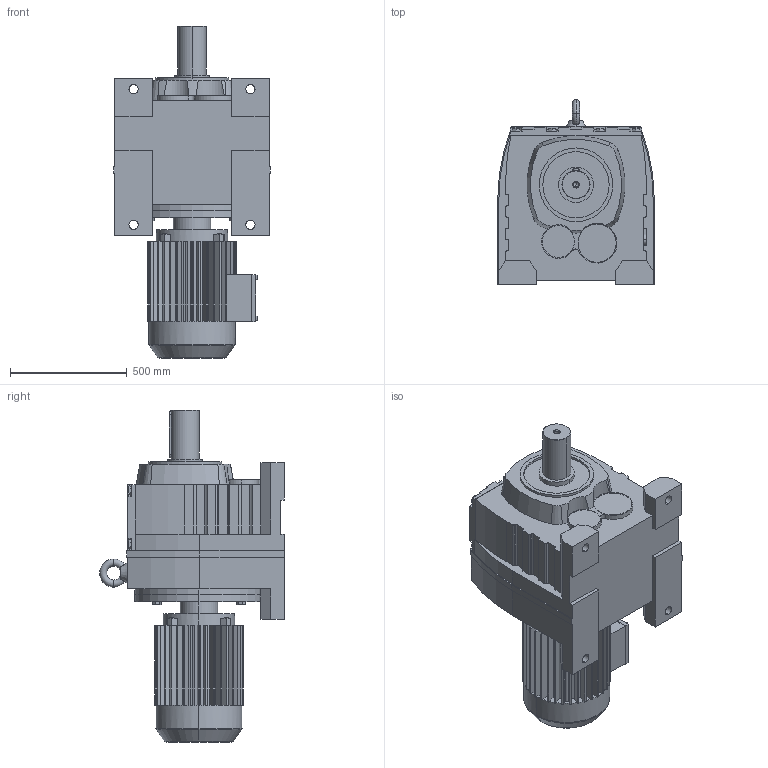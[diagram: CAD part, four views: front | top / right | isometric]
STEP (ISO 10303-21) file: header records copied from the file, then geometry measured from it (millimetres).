
FILE_DESCRIPTION(('Open CASCADE Model'),'2;1');
FILE_NAME('Open CASCADE Shape Model','2021-06-28T11:21:43',('Author'),( 'Open CASCADE'),'Open CASCADE STEP processor 6.3','Open CASCADE 6.3' ,'Unknown');
FILE_SCHEMA(('AUTOMOTIVE_DESIGN_CC2 { 1 2 10303 214 -1 1 5 4 }'));
Length unit declared in the file: millimetre
Products named in the file (3): 1_R167-Y180L; R37‵167_167.step; 萇儂_550_Y180L.step
Assembly tree (2 placements, depth 2):
  1_R167-Y180L
    R37‵167_167.step
    萇儂_550_Y180L.step
Bounding box: 670 x 790 x 1420 mm (x, y, z)
Volume: 271788870.4 mm3; surface area: 4861421.6 mm2
Topology: 2 solids, 2 shells, 735 faces, 1950 edges, 1261 vertices
Faces by surface type: plane 520, cylinder 185, cone 20, torus 10
Entity records: 51231 total; most frequent: CARTESIAN_POINT 14021, DIRECTION 6488, ORIENTED_EDGE 3896, PCURVE 3896, DEFINITIONAL_REPRESENTATION 3896, LINE 3635, VECTOR 3635, EDGE_CURVE 1948
